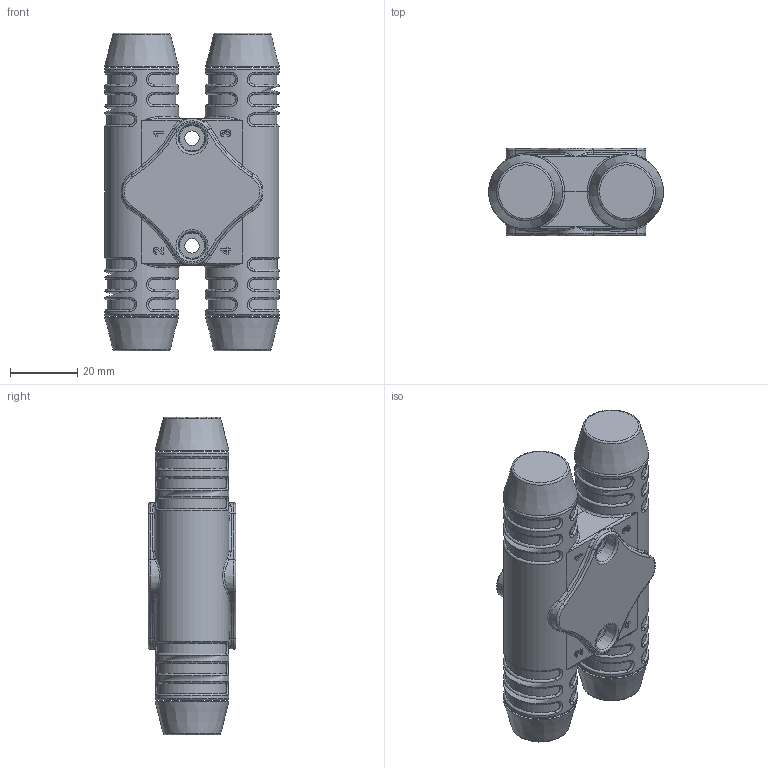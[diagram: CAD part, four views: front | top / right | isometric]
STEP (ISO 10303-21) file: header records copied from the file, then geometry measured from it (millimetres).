
FILE_DESCRIPTION(/* description */ (''),/* implementation_level */ '2;1');
FILE_NAME(/* name */ 'L:\CAD Inventor\Workspace\Catalogs\CATALOG-TURCK CONNECTORS\BH-M16_4 CABLES.stp',/* time_stamp */ '2021-08-02T09:32:03-05:00',/* author */ ('RSwans'),/* organization */ (''),/* preprocessor_version */ 'ST-DEVELOPER v16.5',/* originating_system */ 'Autodesk Inventor 2017',/* authorisation */ '');
FILE_SCHEMA (('AUTOMOTIVE_DESIGN { 1 0 10303 214 3 1 1 }'));
Length unit declared in the file: millimetre
Products named in the file (1): Part1
Bounding box: 52 x 26 x 94.4 mm (x, y, z)
Volume: 81972.3 mm3; surface area: 18287.7 mm2
Topology: 5 solids, 5 shells, 402 faces, 978 edges, 596 vertices
Faces by surface type: bspline 126, plane 92, torus 88, cylinder 72, cone 24
Full cylindrical faces by diameter (mm): 4.3 x2, 22 x2
Entity records: 16116 total; most frequent: CARTESIAN_POINT 7378, ORIENTED_EDGE 1808, DIRECTION 1482, EDGE_CURVE 904, AXIS2_PLACEMENT_3D 617, VERTEX_POINT 576, EDGE_LOOP 470, STYLED_ITEM 407
